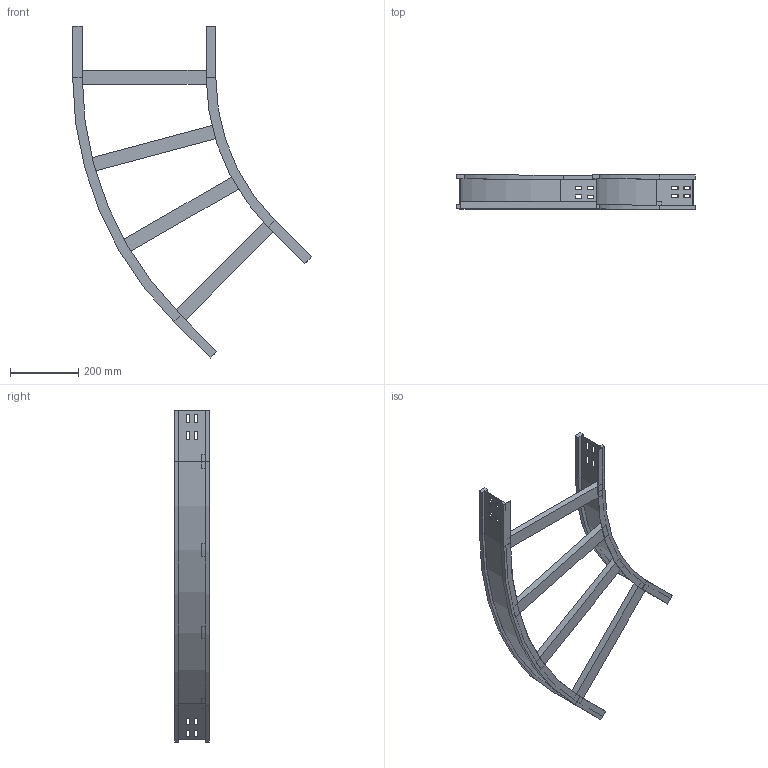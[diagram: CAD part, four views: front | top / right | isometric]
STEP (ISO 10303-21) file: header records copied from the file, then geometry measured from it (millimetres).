
FILE_DESCRIPTION (( 'STEP AP214' ), '1' );
FILE_NAME ('11S6D400.step', '2025-02-21T16:03:44', ( '' ), ( '' ), 'SwSTEP 2.0', 'SolidWorks 2023', '' );
FILE_SCHEMA (( 'AUTOMOTIVE_DESIGN' ));
Length unit declared in the file: millimetre
Products named in the file (4): LONGH.ESTERNO 45°_H100_R600+400; TRAVERSINO_400; 11S6D400; LONGH.INTERNO 45°_H100_R600
Assembly tree (6 placements, depth 2):
  11S6D400
    LONGH.INTERNO 45°_H100_R600
    LONGH.ESTERNO 45°_H100_R600+400
    TRAVERSINO_400  x4
Bounding box: 697.17 x 100 x 969.54 mm (x, y, z)
Volume: 2265361.8 mm3; surface area: 746602.2 mm2
Topology: 6 solids, 6 shells, 164 faces, 408 edges, 256 vertices
Faces by surface type: plane 152, cylinder 12
Entity records: 4485 total; most frequent: CARTESIAN_POINT 759, ORIENTED_EDGE 744, DIRECTION 706, EDGE_CURVE 372, LINE 348, VECTOR 348, VERTEX_POINT 232, AXIS2_PLACEMENT_3D 179
